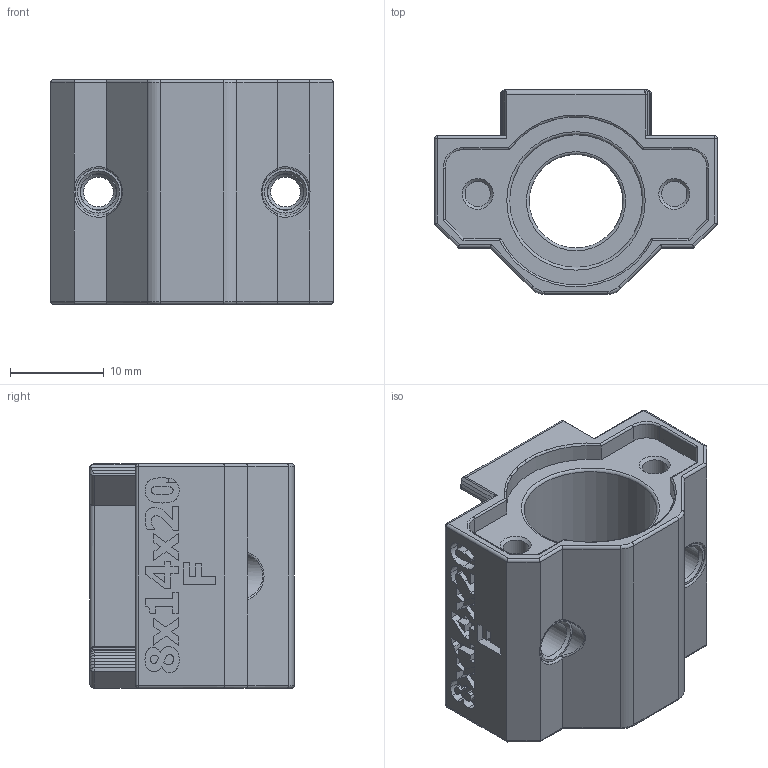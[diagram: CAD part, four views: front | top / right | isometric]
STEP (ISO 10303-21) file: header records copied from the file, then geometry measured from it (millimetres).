
FILE_DESCRIPTION(/* description */ ('3D-Druck'),/* implementation_level */ '2;1');
FILE_NAME(/* name */ '\\7800MBZ-PC\Maschinenbau-Projekte\Prusa_MK3_CAD\Linearlager\Linearlager-Sinterbuchsen-MK3-Y-Achse\Export_Step\Caspar_Sinterbuchsen_8x14x20_MK3\PrusaMods_Y-Axis_Bearing_Holder_RJ4JP_+0.20_Festlager.stp',/* time_stamp */ '2023-04-10T17:43:08+02:00',/* author */ ('KHG'),/* organization */ (''),/* preprocessor_version */ 'ST-DEVELOPER v18.1',/* originating_system */ 'Autodesk Inventor 2020',/* authorisation */ 'Unknown');
FILE_SCHEMA (('AUTOMOTIVE_DESIGN { 1 0 10303 214 3 1 1 }'));
Length unit declared in the file: millimetre
Products named in the file (1): PrusaMods_Y-Axis_Bearing_Holder_RJ4JP_+0.20_Festlager
Bounding box: 30.2 x 21.86 x 24 mm (x, y, z)
Volume: 6997.5 mm3; surface area: 4792 mm2
Topology: 1 solids, 1 shells, 432 faces, 1117 edges, 717 vertices
Faces by surface type: plane 228, bspline 94, cylinder 85, torus 13, cone 8, sphere 4
Full cylindrical faces by diameter (mm): 2.7 x2, 3.2 x2, 3.9 x2, 5 x2, 10 x1, 14.2 x1
Entity records: 13831 total; most frequent: CARTESIAN_POINT 3784, ORIENTED_EDGE 2234, DIRECTION 1759, EDGE_CURVE 1117, LINE 757, VECTOR 757, VERTEX_POINT 717, AXIS2_PLACEMENT_3D 501
